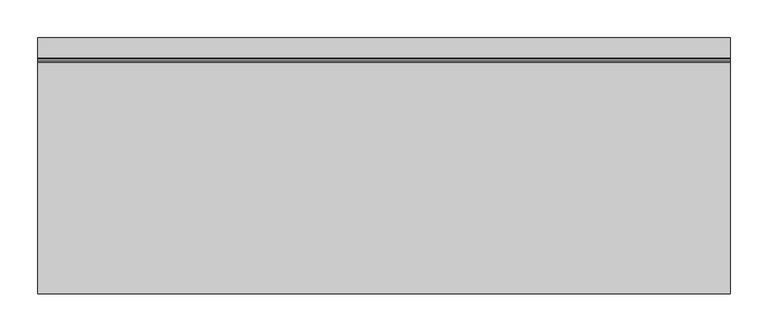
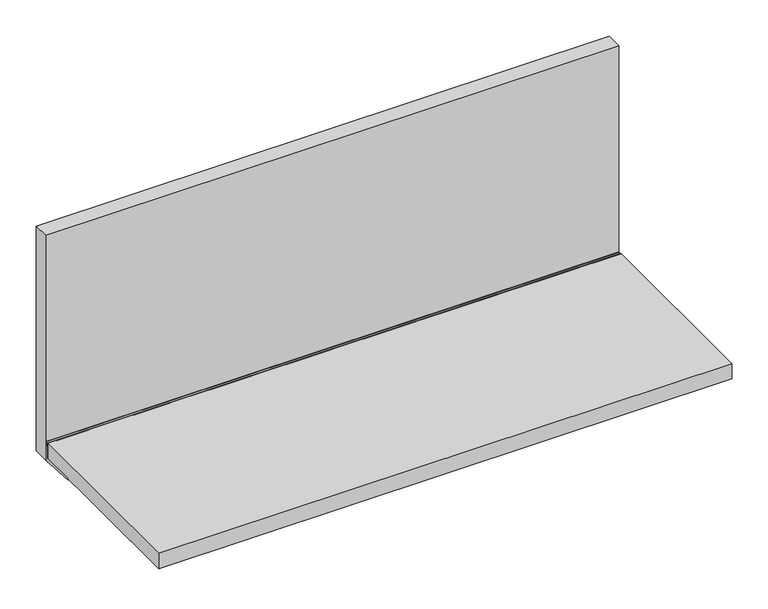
"""IFC4 building model written with IfcOpenShell, lengths in millimetres: furniture geometry, Geiger_GeigerOneCasegoods_OverheadStorageSingleShelfFullBackPanel : TFL 36Wx 13.375Dx 14.875H."""

from ifc_helpers import new_model, si_unit, point, frame, frame_2d, origin, origin_with_axes, place, context, project, spatial, polyline, circle_curve, trimmed, segment, composite_curve, outline, extrude, source, transform, mapped, element, save


def furniture_38b03c54(model_context):
    return source(origin(), model_context, "Body", "SweptSolid", [
        extrude(outline(polyline([(914.4, -6.4077936), (914.4, -32.4077936), (0.0, -32.4077936), (0.0, -6.4077936), (914.4, -6.4077936)])), origin_with_axes(), (0.0, 0.0, 1.0), 379.0),
        extrude(outline(composite_curve([segment(polyline([(-33.9043936, 31.496), (-32.4057936, 31.496), (-32.4057936, 0.0)]), True, "CONTINUOUS"), segment(trimmed(circle_curve(frame_2d((-31.5258775, 473.2852461)), 473.2860641), [point((-32.4057936, 0.0))], [point((-93.0584748, 4.0161997))], False, "CARTESIAN"), True, "CONTINUOUS"), segment(trimmed(circle_curve(frame_2d((-92.9289669, 5.0038725)), 0.9961275), [point((-93.0584748, 4.0161997))], [point((-92.9289669, 6.0))], False, "CARTESIAN"), True, "CONTINUOUS"), segment(polyline([(-92.9289669, 6.0), (-38.9077936, 6.0), (-38.9077936, 31.496), (-37.4095936, 31.496), (-37.4095936, 26.4922), (-33.9043936, 26.4922), (-33.9043936, 31.496)]), True, "CONTINUOUS")], self_intersect=False)), frame((0.0, 0.0, 0.0), z_axis=(1.0, 0.0, 0.0), x_axis=(0.0, 1.0, 0.0)), (0.0, 0.0, 1.0), 914.4),
        extrude(outline(polyline([(914.4, -38.9077936), (914.4, -344.4077936), (0.0, -344.4077936), (0.0, -38.9077936), (914.4, -38.9077936)])), frame((0.0, 0.0, 6.0), z_axis=(0.0, 0.0, 1.0), x_axis=(1.0, 0.0, 0.0)), (0.0, 0.0, 1.0), 26.0),
    ])


if __name__ == "__main__":
    model = new_model("IFC4")
    model_context = context("Model", 3, world=origin())
    ifc_project = project(units=[si_unit("LENGTHUNIT", "METRE", prefix="MILLI")], contexts=[model_context])
    site = spatial("IfcSite", under=ifc_project)
    building = spatial("IfcBuilding", under=site)
    placement = place(None, origin())
    furniture_shape = furniture_38b03c54(model_context)
    element("IfcFurniture", 1, ObjectType="Geiger_GeigerOneCasegoods_OverheadStorageSingleShelfFullBackPanel : TFL 36Wx 13.375Dx 14.875H", at=placement, inside=building, context=model_context, shape_type="MappedRepresentation", body=[
        mapped(furniture_shape, transform((0.0, 0.0, 0.0), x_axis=(1.0, 0.0, 0.0), y_axis=(0.0, 1.0, 0.0), z_axis=(0.0, 0.0, 1.0))),
    ])
    save(model, "model.ifc")
